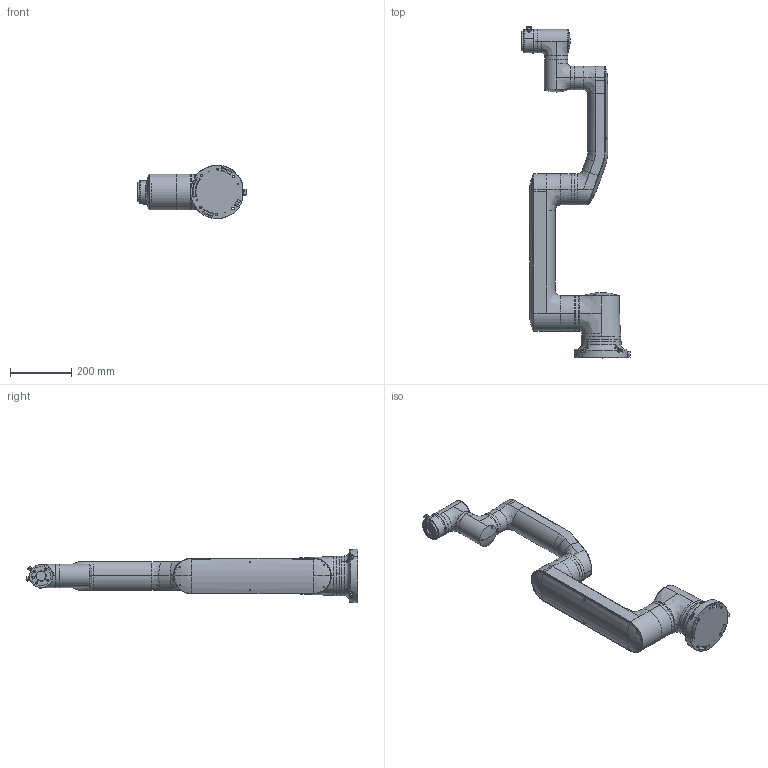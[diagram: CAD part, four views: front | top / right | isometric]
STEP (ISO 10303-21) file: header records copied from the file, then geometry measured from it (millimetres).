
FILE_DESCRIPTION(/* description */ (''),/* implementation_level */ '2;1');
FILE_NAME(/* name */ 'S5-模型-外发_step.stp',/* time_stamp */ '2026-06-11T13:15:07+08:00',/* author */ (''),/* organization */ (''),/* preprocessor_version */ 'ST-DEVELOPER v16.7',/* originating_system */ 'SIEMENS PLM Software NX 12.0',/* authorisation */ '');
FILE_SCHEMA (('AUTOMOTIVE_DESIGN { 1 0 10303 214 3 1 1 1 }'));
Length unit declared in the file: millimetre
Products named in the file (1): A9598ABCAg6af
Bounding box: 352.54 x 1080.53 x 173.59 mm (x, y, z)
Volume: 12105684.8 mm3; surface area: 789223.5 mm2
Topology: 8 solids, 21 shells, 876 faces, 1983 edges, 1179 vertices
Faces by surface type: cylinder 243, plane 196, cone 155, bspline 145, sphere 72, torus 65
Entity records: 56990 total; most frequent: CARTESIAN_POINT 36819, ORIENTED_EDGE 3886, DIRECTION 3814, EDGE_CURVE 1946, AXIS2_PLACEMENT_3D 1621, VERTEX_POINT 1179, EDGE_LOOP 966, CIRCLE 889
